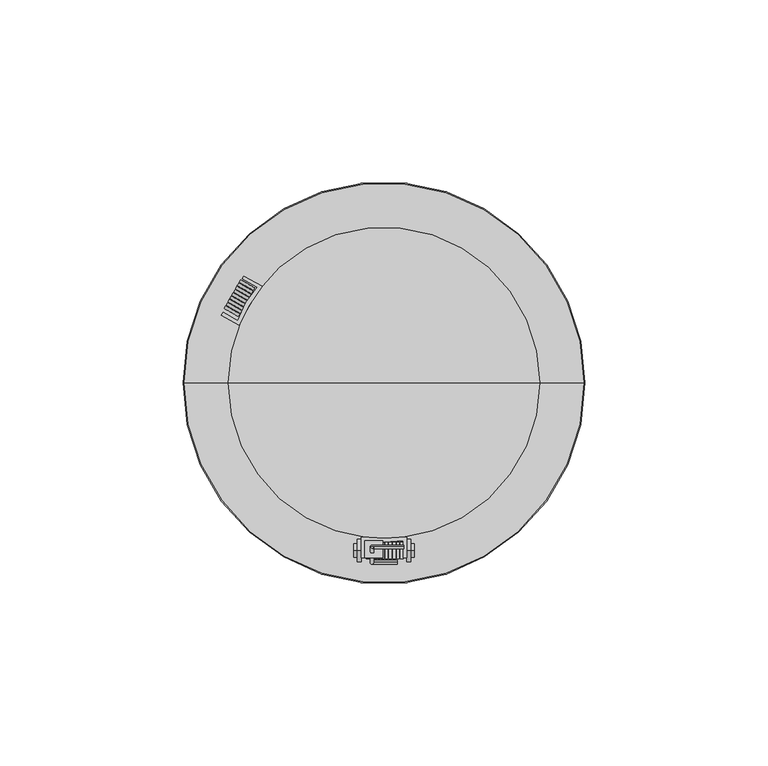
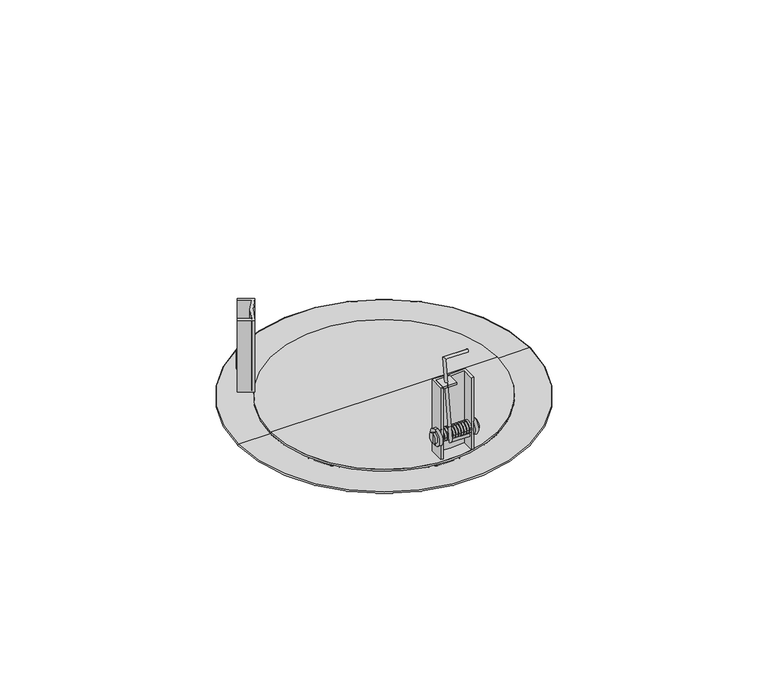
"""IFC4 building model written with IfcOpenShell, lengths in millimetres: proxy geometry, DL 10-165_T plus-EN54 : DL 10-165/T plus-EN54."""

from ifc_helpers import new_model, si_unit, point, frame, frame_2d, origin, origin_2d, place, context, project, spatial, polyline, circle_curve, ellipse_curve, trimmed, segment, composite_curve, outline, extrude, source, transform, mapped, element, save
from ifc_brep_helpers import plane_surface, cylinder_surface, revolved_surface, advanced_brep


def communication_devices_3dddd781(model_context):
    return source(origin(), model_context, "Body", "SolidModel", [
        extrude(outline(composite_curve([segment(trimmed(circle_curve(frame_2d((0.0, -2.2114931)), 2.2114931), [point((0.0, -4.4229862))], [point((0.0, 0.0))], False, "CARTESIAN"), True, "CONTINUOUS"), segment(trimmed(circle_curve(frame_2d((0.0, -2.2114931)), 2.2114931), [point((0.0, 0.0))], [point((0.0, -4.4229862))], False, "CARTESIAN"), True, "CONTINUOUS")], self_intersect=False), holes=[composite_curve([segment(trimmed(circle_curve(frame_2d((0.0, -2.2114931)), 1.6197878), [point((0.0, -3.8312809))], [point((0.0, -0.5917053))], True, "CARTESIAN"), True, "CONTINUOUS"), segment(trimmed(circle_curve(frame_2d((0.0, -2.2114931)), 1.6197878), [point((0.0, -0.5917053))], [point((0.0, -3.8312809))], True, "CARTESIAN"), True, "CONTINUOUS")], self_intersect=False)]), frame((-43.6371534, 20.3715056, 13.8879558), z_axis=(0.5000000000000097, 0.866025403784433, 0.0), x_axis=(0.0, 0.0, -1.0)), (0.0, 0.0, 1.0), 0.7554192),
        extrude(outline(composite_curve([segment(trimmed(circle_curve(frame_2d((0.0, -2.2114931)), 2.2114931), [point((0.0, -4.4229862))], [point((0.0, 0.0))], False, "CARTESIAN"), True, "CONTINUOUS"), segment(trimmed(circle_curve(frame_2d((0.0, -2.2114931)), 2.2114931), [point((0.0, 0.0))], [point((0.0, -4.4229862))], False, "CARTESIAN"), True, "CONTINUOUS")], self_intersect=False), holes=[composite_curve([segment(trimmed(circle_curve(frame_2d((0.0, -2.2114931)), 1.6197878), [point((0.0, -3.8312809))], [point((0.0, -0.5917053))], True, "CARTESIAN"), True, "CONTINUOUS"), segment(trimmed(circle_curve(frame_2d((0.0, -2.2114931)), 1.6197878), [point((0.0, -0.5917053))], [point((0.0, -3.8312809))], True, "CARTESIAN"), True, "CONTINUOUS")], self_intersect=False)]), frame((-43.121995, 21.2637861, 13.8879558), z_axis=(0.5000000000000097, 0.866025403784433, 0.0), x_axis=(0.0, 0.0, -1.0)), (0.0, 0.0, 1.0), 0.7554192),
        extrude(outline(composite_curve([segment(trimmed(circle_curve(frame_2d((0.0, -2.2114931)), 2.2114931), [point((0.0, -4.4229862))], [point((0.0, 0.0))], False, "CARTESIAN"), True, "CONTINUOUS"), segment(trimmed(circle_curve(frame_2d((0.0, -2.2114931)), 2.2114931), [point((0.0, 0.0))], [point((0.0, -4.4229862))], False, "CARTESIAN"), True, "CONTINUOUS")], self_intersect=False), holes=[composite_curve([segment(trimmed(circle_curve(frame_2d((0.0, -2.2114931)), 1.6197878), [point((0.0, -3.8312809))], [point((0.0, -0.5917053))], True, "CARTESIAN"), True, "CONTINUOUS"), segment(trimmed(circle_curve(frame_2d((0.0, -2.2114931)), 1.6197878), [point((0.0, -0.5917053))], [point((0.0, -3.8312809))], True, "CARTESIAN"), True, "CONTINUOUS")], self_intersect=False)]), frame((-42.6068366, 22.1560666, 13.8879558), z_axis=(0.5000000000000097, 0.866025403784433, 0.0), x_axis=(0.0, 0.0, -1.0)), (0.0, 0.0, 1.0), 0.7554192),
        extrude(outline(composite_curve([segment(trimmed(circle_curve(frame_2d((0.0, -2.2114931)), 2.2114931), [point((0.0, -4.4229861))], [point((0.0, 0.0))], False, "CARTESIAN"), True, "CONTINUOUS"), segment(trimmed(circle_curve(frame_2d((0.0, -2.2114931)), 2.2114931), [point((0.0, 0.0))], [point((0.0, -4.4229861))], False, "CARTESIAN"), True, "CONTINUOUS")], self_intersect=False), holes=[composite_curve([segment(trimmed(circle_curve(frame_2d((0.0, -2.2114931)), 1.6197878), [point((0.0, -3.8312809))], [point((0.0, -0.5917052))], True, "CARTESIAN"), True, "CONTINUOUS"), segment(trimmed(circle_curve(frame_2d((0.0, -2.2114931)), 1.6197878), [point((0.0, -0.5917052))], [point((0.0, -3.8312809))], True, "CARTESIAN"), True, "CONTINUOUS")], self_intersect=False)]), frame((-42.0916782, 23.0483471, 13.8879558), z_axis=(0.5000000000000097, 0.866025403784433, 0.0), x_axis=(0.0, 0.0, -1.0)), (0.0, 0.0, 1.0), 0.7554192),
        extrude(outline(composite_curve([segment(trimmed(circle_curve(frame_2d((0.0, -2.2114931)), 2.2114931), [point((0.0, -4.4229861))], [point((0.0, 0.0))], False, "CARTESIAN"), True, "CONTINUOUS"), segment(trimmed(circle_curve(frame_2d((0.0, -2.2114931)), 2.2114931), [point((0.0, 0.0))], [point((0.0, -4.4229861))], False, "CARTESIAN"), True, "CONTINUOUS")], self_intersect=False), holes=[composite_curve([segment(trimmed(circle_curve(frame_2d((0.0, -2.2114931)), 1.6197878), [point((0.0, -3.8312809))], [point((0.0, -0.5917052))], True, "CARTESIAN"), True, "CONTINUOUS"), segment(trimmed(circle_curve(frame_2d((0.0, -2.2114931)), 1.6197878), [point((0.0, -0.5917052))], [point((0.0, -3.8312809))], True, "CARTESIAN"), True, "CONTINUOUS")], self_intersect=False)]), frame((-41.5765198, 23.9406276, 13.8879558), z_axis=(0.5000000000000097, 0.866025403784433, 0.0), x_axis=(0.0, 0.0, -1.0)), (0.0, 0.0, 1.0), 0.7554192),
        extrude(outline(composite_curve([segment(trimmed(circle_curve(frame_2d((0.0, -2.2114931)), 2.2114931), [point((0.0, -4.4229861))], [point((0.0, 0.0))], False, "CARTESIAN"), True, "CONTINUOUS"), segment(trimmed(circle_curve(frame_2d((0.0, -2.2114931)), 2.2114931), [point((0.0, 0.0))], [point((0.0, -4.4229861))], False, "CARTESIAN"), True, "CONTINUOUS")], self_intersect=False), holes=[composite_curve([segment(trimmed(circle_curve(frame_2d((0.0, -2.2114931)), 1.6197878), [point((0.0, -3.8312809))], [point((0.0, -0.5917052))], True, "CARTESIAN"), True, "CONTINUOUS"), segment(trimmed(circle_curve(frame_2d((0.0, -2.2114931)), 1.6197878), [point((0.0, -0.5917052))], [point((0.0, -3.8312809))], True, "CARTESIAN"), True, "CONTINUOUS")], self_intersect=False)]), frame((-41.0613614, 24.8329081, 13.8879558), z_axis=(0.5000000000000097, 0.866025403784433, 0.0), x_axis=(0.0, 0.0, -1.0)), (0.0, 0.0, 1.0), 0.7554192),
        extrude(outline(composite_curve([segment(trimmed(circle_curve(frame_2d((0.0, -2.211493)), 2.2114931), [point((0.0, -4.4229861))], [point((0.0, 0.0))], False, "CARTESIAN"), True, "CONTINUOUS"), segment(trimmed(circle_curve(frame_2d((0.0, -2.211493)), 2.2114931), [point((0.0, 0.0))], [point((0.0, -4.4229861))], False, "CARTESIAN"), True, "CONTINUOUS")], self_intersect=False), holes=[composite_curve([segment(trimmed(circle_curve(frame_2d((0.0, -2.211493)), 1.6197878), [point((0.0, -3.8312809))], [point((0.0, -0.5917052))], True, "CARTESIAN"), True, "CONTINUOUS"), segment(trimmed(circle_curve(frame_2d((0.0, -2.211493)), 1.6197878), [point((0.0, -0.5917052))], [point((0.0, -3.8312809))], True, "CARTESIAN"), True, "CONTINUOUS")], self_intersect=False)]), frame((-40.546203, 25.7251886, 13.8879558), z_axis=(0.5000000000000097, 0.866025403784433, 0.0), x_axis=(0.0, 0.0, -1.0)), (0.0, 0.0, 1.0), 0.7554192),
        extrude(outline(composite_curve([segment(trimmed(circle_curve(frame_2d((0.0, -2.211493)), 2.2114931), [point((0.0, -4.4229861))], [point((0.0, 0.0))], False, "CARTESIAN"), True, "CONTINUOUS"), segment(trimmed(circle_curve(frame_2d((0.0, -2.211493)), 2.2114931), [point((0.0, 0.0))], [point((0.0, -4.4229861))], False, "CARTESIAN"), True, "CONTINUOUS")], self_intersect=False), holes=[composite_curve([segment(trimmed(circle_curve(frame_2d((0.0, -2.211493)), 1.6197878), [point((0.0, -3.8312809))], [point((0.0, -0.5917052))], True, "CARTESIAN"), True, "CONTINUOUS"), segment(trimmed(circle_curve(frame_2d((0.0, -2.211493)), 1.6197878), [point((0.0, -0.5917052))], [point((0.0, -3.8312809))], True, "CARTESIAN"), True, "CONTINUOUS")], self_intersect=False)]), frame((-40.0310446, 26.6174691, 13.8879558), z_axis=(0.5000000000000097, 0.866025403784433, 0.0), x_axis=(0.0, 0.0, -1.0)), (0.0, 0.0, 1.0), 0.7554192),
        extrude(outline(composite_curve([segment(trimmed(circle_curve(frame_2d((0.0, -2.2114931)), 2.2114931), [point((0.0, -4.4229861))], [point((0.0, 0.0))], False, "CARTESIAN"), True, "CONTINUOUS"), segment(trimmed(circle_curve(frame_2d((0.0, -2.2114931)), 2.2114931), [point((0.0, 0.0))], [point((0.0, -4.4229861))], False, "CARTESIAN"), True, "CONTINUOUS")], self_intersect=False), holes=[composite_curve([segment(trimmed(circle_curve(frame_2d((0.0, -2.2114931)), 1.6197878), [point((0.0, -3.8312809))], [point((0.0, -0.5917053))], True, "CARTESIAN"), True, "CONTINUOUS"), segment(trimmed(circle_curve(frame_2d((0.0, -2.2114931)), 1.6197878), [point((0.0, -0.5917053))], [point((0.0, -3.8312809))], True, "CARTESIAN"), True, "CONTINUOUS")], self_intersect=False)]), frame((-39.5158863, 27.5097496, 13.8879558), z_axis=(0.5000000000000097, 0.866025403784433, 0.0), x_axis=(0.0, 0.0, -1.0)), (0.0, 0.0, 1.0), 0.7554192),
        extrude(outline(composite_curve([segment(trimmed(circle_curve(frame_2d((0.0, -2.2114931)), 2.2114931), [point((0.0, -4.4229861))], [point((0.0, 0.0))], False, "CARTESIAN"), True, "CONTINUOUS"), segment(trimmed(circle_curve(frame_2d((0.0, -2.2114931)), 2.2114931), [point((0.0, 0.0))], [point((0.0, -4.4229861))], False, "CARTESIAN"), True, "CONTINUOUS")], self_intersect=False), holes=[composite_curve([segment(trimmed(circle_curve(frame_2d((0.0, -2.2114931)), 1.6197878), [point((0.0, -3.8312809))], [point((0.0, -0.5917053))], True, "CARTESIAN"), True, "CONTINUOUS"), segment(trimmed(circle_curve(frame_2d((0.0, -2.2114931)), 1.6197878), [point((0.0, -0.5917053))], [point((0.0, -3.8312809))], True, "CARTESIAN"), True, "CONTINUOUS")], self_intersect=False)]), frame((-39.5158863, 27.5097496, 13.8879558), z_axis=(0.5000000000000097, 0.866025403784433, 0.0), x_axis=(0.0, 0.0, -1.0)), (0.0, 0.0, 1.0), 0.7554192),
        extrude(outline(composite_curve([segment(trimmed(circle_curve(origin_2d(), 42.496521), [point((-33.3310099, 26.3628162))], [point((-39.4963735, 15.6840932))], True, "CARTESIAN"), True, "CONTINUOUS"), segment(polyline([(-39.4963735, 15.6840932), (-44.4217943, 18.5277863), (-43.9440892, 19.3551958), (-39.9036209, 17.0224303)]), True, "CONTINUOUS"), segment(trimmed(circle_curve(frame_2d((-15.4549714, 8.8959153)), 25.7638644), [point((-39.9036209, 17.0224303))], [point((-34.6171509, 26.1176336))], False, "CARTESIAN"), True, "CONTINUOUS"), segment(polyline([(-34.6171509, 26.1176336), (-38.6841332, 28.4657069), (-38.2564308, 29.2065092), (-33.3310099, 26.3628162)]), True, "CONTINUOUS")], self_intersect=False)), frame((0.0, 0.0, 5.7345004), z_axis=(0.0, 0.0, 1.0), x_axis=(1.0, 0.0, 0.0)), (0.0, 0.0, 1.0), 28.5085083),
        extrude(outline(polyline([(-0.3099587, -47.7342955), (-5.3099587, -47.7342955), (-5.3099587, -43.1693211), (-0.3099587, -43.1693211), (-0.3099587, -47.7342955)])), frame((0.0, 0.0, 33.4827769), z_axis=(0.0, 0.0, 1.0), x_axis=(1.0, 0.0, 0.0)), (0.0, 0.0, 1.0), 0.7602318),
        advanced_brep(
        [(5.4613857, -44.7818094, 43.8165144), (5.4613857, -44.9176783, 42.8257876), (-2.7591181, -44.9176783, 42.8257876), (-3.7591181, -44.7818094, 43.8165144), (-3.7591181, -49.0834006, 12.4502375), (-2.7591181, -48.9475317, 13.4409643), (3.624845, -49.0834006, 12.4502375), (3.624845, -48.9475317, 13.4409643)],
        [
            (0, 1, circle_curve(frame((5.4613857, -44.8497438, 43.321151), z_axis=(1.0, 0.0, 0.0), x_axis=(0.0, -0.13586890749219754, -0.9907268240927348)), 0.5)),
            (1, 0, circle_curve(frame((5.4613857, -44.8497438, 43.321151), z_axis=(1.0, 0.0, 0.0), x_axis=(0.0, -0.13586890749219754, -0.9907268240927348)), 0.5)),
            (2, 3, ellipse_curve(frame((-3.2591181, -44.8497438, 43.321151), z_axis=(-0.7071067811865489, -0.09607382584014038, -0.7005496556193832), x_axis=(-0.7071067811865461, 0.09607382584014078, 0.700549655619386)), 0.7071068, 0.5)),
            (3, 4),
            (4, 5, ellipse_curve(frame((-3.2591181, -49.0154661, 12.9456009), z_axis=(-0.7071067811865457, 0.0960738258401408, 0.7005496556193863), x_axis=(0.7071067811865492, 0.09607382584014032, 0.7005496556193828)), 0.7071068, 0.5)),
            (5, 2),
            (3, 2, ellipse_curve(frame((-3.2591181, -44.8497438, 43.321151), z_axis=(-0.7071067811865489, -0.09607382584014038, -0.7005496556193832), x_axis=(-0.7071067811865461, 0.09607382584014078, 0.700549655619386)), 0.7071068, 0.5)),
            (5, 4, ellipse_curve(frame((-3.2591181, -49.0154661, 12.9456009), z_axis=(-0.7071067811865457, 0.0960738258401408, 0.7005496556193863), x_axis=(0.7071067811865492, 0.09607382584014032, 0.7005496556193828)), 0.7071068, 0.5)),
            (6, 7, circle_curve(frame((3.624845, -49.0154661, 12.9456009), z_axis=(1.0, 0.0, 0.0), x_axis=(0.0, 0.13586890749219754, 0.9907268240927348)), 0.5)),
            (7, 6, circle_curve(frame((3.624845, -49.0154661, 12.9456009), z_axis=(1.0, 0.0, 0.0), x_axis=(0.0, 0.13586890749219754, 0.9907268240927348)), 0.5)),
            (4, 6),
            (7, 5),
            (0, 3),
            (2, 1),
        ],
        [
            plane_surface(frame((5.4613857, -0.3703338, 36.0923621), z_axis=(1.0, 0.0, 0.0), x_axis=(0.0, -0.9907268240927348, 0.13586890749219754))),
            cylinder_surface(frame((-3.2591181, -45.0016978, 42.2131358), z_axis=(0.0, 0.13586890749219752, 0.9907268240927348), x_axis=(1.0, 0.0, 0.0)), 0.5),
            plane_surface(frame((3.624845, -4.2321483, 7.9328424), z_axis=(1.0, 0.0, 0.0), x_axis=(0.0, -0.9907268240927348, 0.13586890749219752))),
            cylinder_surface(frame((-2.140732, -49.0154661, 12.9456009), z_axis=(-1.0, 0.0, 0.0), x_axis=(0.0, 0.13586890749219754, 0.9907268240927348)), 0.5),
            cylinder_surface(frame((5.4613857, -44.8497438, 43.321151), z_axis=(1.0, 0.0, 0.0), x_axis=(0.0, -0.13586890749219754, -0.9907268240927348)), 0.5),
        ],
        [
            (0, [[1, 2]]),
            (1, [[3, 4, 5, 6]]),
            (1, [[7, -6, 8, -4]]),
            (2, [[9, 10]]),
            (3, [[-5, 11, -10, 12]]),
            (3, [[-8, -12, -9, -11]]),
            (4, [[-1, 13, -3, 14]]),
            (4, [[-2, -14, -7, -13]]),
        ],
    ),
        advanced_brep(
        [(-7.2651289, -45.78125, 10.6517111), (-7.2651289, -45.78125, 16.869995), (-6.1653636, -45.78125, 16.869995), (-6.1653636, -45.78125, 10.6517111), (-7.2651289, -45.78125, 11.8431266), (-7.2651289, -45.78125, 15.6785795), (-8.210857, -45.78125, 11.8431266), (-8.210857, -45.78125, 15.6785795), (-8.210857, -45.78125, 13.760853), (8.210857, -45.78125, 11.8431266), (8.210857, -45.78125, 15.6785795), (8.210857, -45.78125, 13.760853), (7.2651289, -45.78125, 11.8431266), (7.2651289, -45.78125, 15.6785795), (7.2651289, -45.78125, 10.6517111), (7.2651289, -45.78125, 16.869995), (6.1653636, -45.78125, 10.6517111), (6.1653636, -45.78125, 16.869995), (6.1653636, -45.78125, 12.8676654), (6.1653636, -45.78125, 14.6540407), (-6.1653636, -45.78125, 12.8676654), (-6.1653636, -45.78125, 14.6540407)],
        [
            (0, 1, circle_curve(frame((-7.2651289, -45.78125, 13.760853), z_axis=(1.0, 0.0, 0.0), x_axis=(0.0, 0.0, 1.0)), 3.109142)),
            (1, 2),
            (2, 3, circle_curve(frame((-6.1653636, -45.78125, 13.760853), z_axis=(-1.0, 0.0, 0.0), x_axis=(0.0, 0.0, 1.0)), 3.109142)),
            (3, 0),
            (1, 0, circle_curve(frame((-7.2651289, -45.78125, 13.760853), z_axis=(1.0, 0.0, 0.0), x_axis=(0.0, 0.0, 1.0)), 3.109142)),
            (3, 2, circle_curve(frame((-6.1653636, -45.78125, 13.760853), z_axis=(-1.0, 0.0, 0.0), x_axis=(0.0, 0.0, 1.0)), 3.109142)),
            (4, 5, circle_curve(frame((-7.2651289, -45.78125, 13.760853), z_axis=(1.0, 0.0, 0.0), x_axis=(0.0, 0.0, 1.0)), 1.9177265)),
            (5, 1),
            (0, 4),
            (5, 4, circle_curve(frame((-7.2651289, -45.78125, 13.760853), z_axis=(1.0, 0.0, 0.0), x_axis=(0.0, 0.0, 1.0)), 1.9177265)),
            (6, 7, circle_curve(frame((-8.210857, -45.78125, 13.760853), z_axis=(1.0, 0.0, 0.0), x_axis=(0.0, 0.0, 1.0)), 1.9177265)),
            (7, 5),
            (4, 6),
            (7, 6, circle_curve(frame((-8.210857, -45.78125, 13.760853), z_axis=(1.0, 0.0, 0.0), x_axis=(0.0, 0.0, 1.0)), 1.9177265)),
            (8, 7),
            (6, 8),
            (9, 10, circle_curve(frame((8.210857, -45.78125, 13.760853), z_axis=(1.0, 0.0, 0.0), x_axis=(0.0, 0.0, 1.0)), 1.9177265)),
            (10, 11),
            (11, 9),
            (10, 9, circle_curve(frame((8.210857, -45.78125, 13.760853), z_axis=(1.0, 0.0, 0.0), x_axis=(0.0, 0.0, 1.0)), 1.9177265)),
            (12, 13, circle_curve(frame((7.2651289, -45.78125, 13.760853), z_axis=(1.0, 0.0, 0.0), x_axis=(0.0, 0.0, 1.0)), 1.9177265)),
            (13, 10),
            (9, 12),
            (13, 12, circle_curve(frame((7.2651289, -45.78125, 13.760853), z_axis=(1.0, 0.0, 0.0), x_axis=(0.0, 0.0, 1.0)), 1.9177265)),
            (14, 15, circle_curve(frame((7.2651289, -45.78125, 13.760853), z_axis=(1.0, 0.0, 0.0), x_axis=(0.0, 0.0, 1.0)), 3.109142)),
            (15, 13),
            (12, 14),
            (15, 14, circle_curve(frame((7.2651289, -45.78125, 13.760853), z_axis=(1.0, 0.0, 0.0), x_axis=(0.0, 0.0, 1.0)), 3.109142)),
            (16, 17, circle_curve(frame((6.1653636, -45.78125, 13.760853), z_axis=(1.0, 0.0, 0.0), x_axis=(0.0, 0.0, 1.0)), 3.109142)),
            (17, 15),
            (14, 16),
            (17, 16, circle_curve(frame((6.1653636, -45.78125, 13.760853), z_axis=(1.0, 0.0, 0.0), x_axis=(0.0, 0.0, 1.0)), 3.109142)),
            (18, 19, circle_curve(frame((6.1653636, -45.78125, 13.760853), z_axis=(1.0, 0.0, 0.0), x_axis=(0.0, 0.0, 1.0)), 0.8931877)),
            (19, 17),
            (16, 18),
            (19, 18, circle_curve(frame((6.1653636, -45.78125, 13.760853), z_axis=(1.0, 0.0, 0.0), x_axis=(0.0, 0.0, 1.0)), 0.8931877)),
            (20, 21, circle_curve(frame((-6.1653636, -45.78125, 13.760853), z_axis=(1.0, 0.0, 0.0), x_axis=(0.0, 0.0, 1.0)), 0.8931877)),
            (21, 19),
            (18, 20),
            (21, 20, circle_curve(frame((-6.1653636, -45.78125, 13.760853), z_axis=(1.0, 0.0, 0.0), x_axis=(0.0, 0.0, 1.0)), 0.8931877)),
            (2, 21),
            (20, 3),
        ],
        [
            cylinder_surface(frame((-0.700351, -45.78125, 13.760853), z_axis=(-1.0, 0.0, 0.0), x_axis=(0.0, 0.0, 1.0)), 3.109142),
            plane_surface(frame((-7.2651289, -45.78125, 13.760853), z_axis=(-1.0, 0.0, 0.0), x_axis=(0.0, 0.0, 1.0))),
            cylinder_surface(frame((-0.700351, -45.78125, 13.760853), z_axis=(-1.0, 0.0, 0.0), x_axis=(0.0, 0.0, 1.0)), 1.9177265),
            plane_surface(frame((-8.210857, -45.78125, 13.760853), z_axis=(-1.0, 0.0, 0.0), x_axis=(0.0, 0.0, 1.0))),
            plane_surface(frame((8.210857, -45.78125, 13.760853), z_axis=(1.0, 0.0, 0.0), x_axis=(0.0, 0.0, 1.0))),
            plane_surface(frame((7.2651289, -45.78125, 13.760853), z_axis=(1.0, 0.0, 0.0), x_axis=(0.0, 0.0, 1.0))),
            plane_surface(frame((6.1653636, -45.78125, 13.760853), z_axis=(-1.0, 0.0, 0.0), x_axis=(0.0, 0.0, 1.0))),
            cylinder_surface(frame((-0.700351, -45.78125, 13.760853), z_axis=(-1.0, 0.0, 0.0), x_axis=(0.0, 0.0, 1.0)), 0.8931877),
            plane_surface(frame((-6.1653636, -45.78125, 13.760853), z_axis=(1.0, 0.0, 0.0), x_axis=(0.0, 0.0, 1.0))),
        ],
        [
            (0, [[1, 2, 3, 4]]),
            (0, [[5, -4, 6, -2]]),
            (1, [[7, 8, -1, 9]]),
            (1, [[10, -9, -5, -8]]),
            (2, [[11, 12, -7, 13]]),
            (2, [[14, -13, -10, -12]]),
            (3, [[15, -11, 16]]),
            (3, [[-16, -14, -15]]),
            (4, [[17, 18, 19]]),
            (4, [[20, -19, -18]]),
            (2, [[21, 22, -17, 23]]),
            (2, [[24, -23, -20, -22]]),
            (5, [[25, 26, -21, 27]]),
            (5, [[28, -27, -24, -26]]),
            (0, [[29, 30, -25, 31]]),
            (0, [[32, -31, -28, -30]]),
            (6, [[33, 34, -29, 35]]),
            (6, [[36, -35, -32, -34]]),
            (7, [[37, 38, -33, 39]]),
            (7, [[40, -39, -36, -38]]),
            (8, [[-3, 41, -37, 42]]),
            (8, [[-6, -42, -40, -41]]),
        ],
    ),
        extrude(outline(composite_curve([segment(trimmed(circle_curve(frame_2d((-45.7651431, 13.8879558)), 2.2114931), [point((-43.55365, 13.8879558))], [point((-47.9766362, 13.8879558))], False, "CARTESIAN"), True, "CONTINUOUS"), segment(trimmed(circle_curve(frame_2d((-45.7651431, 13.8879558)), 2.2114931), [point((-47.9766362, 13.8879558))], [point((-43.55365, 13.8879558))], False, "CARTESIAN"), True, "CONTINUOUS")], self_intersect=False), holes=[composite_curve([segment(trimmed(circle_curve(frame_2d((-45.7651431, 13.8879558)), 1.6197878), [point((-44.1453553, 13.8879558))], [point((-47.3849309, 13.8879558))], True, "CARTESIAN"), True, "CONTINUOUS"), segment(trimmed(circle_curve(frame_2d((-45.7651431, 13.8879558)), 1.6197878), [point((-47.3849309, 13.8879558))], [point((-44.1453553, 13.8879558))], True, "CARTESIAN"), True, "CONTINUOUS")], self_intersect=False)]), frame((4.4512329, 0.0, 0.0), z_axis=(1.0, 0.0, 0.0), x_axis=(0.0, 1.0, 0.0)), (0.0, 0.0, 1.0), 0.7554192),
        extrude(outline(composite_curve([segment(trimmed(circle_curve(frame_2d((-45.7651431, 13.8879558)), 2.2114931), [point((-43.55365, 13.8879558))], [point((-47.9766362, 13.8879558))], False, "CARTESIAN"), True, "CONTINUOUS"), segment(trimmed(circle_curve(frame_2d((-45.7651431, 13.8879558)), 2.2114931), [point((-47.9766362, 13.8879558))], [point((-43.55365, 13.8879558))], False, "CARTESIAN"), True, "CONTINUOUS")], self_intersect=False), holes=[composite_curve([segment(trimmed(circle_curve(frame_2d((-45.7651431, 13.8879558)), 1.6197878), [point((-44.1453553, 13.8879558))], [point((-47.3849309, 13.8879558))], True, "CARTESIAN"), True, "CONTINUOUS"), segment(trimmed(circle_curve(frame_2d((-45.7651431, 13.8879558)), 1.6197878), [point((-47.3849309, 13.8879558))], [point((-44.1453553, 13.8879558))], True, "CARTESIAN"), True, "CONTINUOUS")], self_intersect=False)]), frame((3.4209161, 0.0, 0.0), z_axis=(1.0, 0.0, 0.0), x_axis=(0.0, 1.0, 0.0)), (0.0, 0.0, 1.0), 0.7554192),
        extrude(outline(composite_curve([segment(trimmed(circle_curve(frame_2d((-45.7651431, 13.8879558)), 2.2114931), [point((-43.55365, 13.8879558))], [point((-47.9766362, 13.8879558))], False, "CARTESIAN"), True, "CONTINUOUS"), segment(trimmed(circle_curve(frame_2d((-45.7651431, 13.8879558)), 2.2114931), [point((-47.9766362, 13.8879558))], [point((-43.55365, 13.8879558))], False, "CARTESIAN"), True, "CONTINUOUS")], self_intersect=False), holes=[composite_curve([segment(trimmed(circle_curve(frame_2d((-45.7651431, 13.8879558)), 1.6197878), [point((-44.1453553, 13.8879558))], [point((-47.3849309, 13.8879558))], True, "CARTESIAN"), True, "CONTINUOUS"), segment(trimmed(circle_curve(frame_2d((-45.7651431, 13.8879558)), 1.6197878), [point((-47.3849309, 13.8879558))], [point((-44.1453553, 13.8879558))], True, "CARTESIAN"), True, "CONTINUOUS")], self_intersect=False)]), frame((2.3905993, 0.0, 0.0), z_axis=(1.0, 0.0, 0.0), x_axis=(0.0, 1.0, 0.0)), (0.0, 0.0, 1.0), 0.7554192),
        extrude(outline(composite_curve([segment(trimmed(circle_curve(frame_2d((-45.7651431, 13.8879558)), 2.2114931), [point((-43.55365, 13.8879558))], [point((-47.9766362, 13.8879558))], False, "CARTESIAN"), True, "CONTINUOUS"), segment(trimmed(circle_curve(frame_2d((-45.7651431, 13.8879558)), 2.2114931), [point((-47.9766362, 13.8879558))], [point((-43.55365, 13.8879558))], False, "CARTESIAN"), True, "CONTINUOUS")], self_intersect=False), holes=[composite_curve([segment(trimmed(circle_curve(frame_2d((-45.7651431, 13.8879558)), 1.6197878), [point((-44.1453553, 13.8879558))], [point((-47.3849309, 13.8879558))], True, "CARTESIAN"), True, "CONTINUOUS"), segment(trimmed(circle_curve(frame_2d((-45.7651431, 13.8879558)), 1.6197878), [point((-47.3849309, 13.8879558))], [point((-44.1453553, 13.8879558))], True, "CARTESIAN"), True, "CONTINUOUS")], self_intersect=False)]), frame((1.3602826, 0.0, 0.0), z_axis=(1.0, 0.0, 0.0), x_axis=(0.0, 1.0, 0.0)), (0.0, 0.0, 1.0), 0.7554192),
        extrude(outline(composite_curve([segment(trimmed(circle_curve(frame_2d((-45.7651431, 13.8879558)), 2.2114931), [point((-43.55365, 13.8879558))], [point((-47.9766362, 13.8879558))], False, "CARTESIAN"), True, "CONTINUOUS"), segment(trimmed(circle_curve(frame_2d((-45.7651431, 13.8879558)), 2.2114931), [point((-47.9766362, 13.8879558))], [point((-43.55365, 13.8879558))], False, "CARTESIAN"), True, "CONTINUOUS")], self_intersect=False), holes=[composite_curve([segment(trimmed(circle_curve(frame_2d((-45.7651431, 13.8879558)), 1.6197878), [point((-44.1453553, 13.8879558))], [point((-47.3849309, 13.8879558))], True, "CARTESIAN"), True, "CONTINUOUS"), segment(trimmed(circle_curve(frame_2d((-45.7651431, 13.8879558)), 1.6197878), [point((-47.3849309, 13.8879558))], [point((-44.1453553, 13.8879558))], True, "CARTESIAN"), True, "CONTINUOUS")], self_intersect=False)]), frame((0.3299658, 0.0, 0.0), z_axis=(1.0, 0.0, 0.0), x_axis=(0.0, 1.0, 0.0)), (0.0, 0.0, 1.0), 0.7554192),
        extrude(outline(composite_curve([segment(trimmed(circle_curve(frame_2d((-45.7651431, 13.8879558)), 2.2114931), [point((-43.55365, 13.8879558))], [point((-47.9766362, 13.8879558))], False, "CARTESIAN"), True, "CONTINUOUS"), segment(trimmed(circle_curve(frame_2d((-45.7651431, 13.8879558)), 2.2114931), [point((-47.9766362, 13.8879558))], [point((-43.55365, 13.8879558))], False, "CARTESIAN"), True, "CONTINUOUS")], self_intersect=False), holes=[composite_curve([segment(trimmed(circle_curve(frame_2d((-45.7651431, 13.8879558)), 1.6197878), [point((-44.1453553, 13.8879558))], [point((-47.3849309, 13.8879558))], True, "CARTESIAN"), True, "CONTINUOUS"), segment(trimmed(circle_curve(frame_2d((-45.7651431, 13.8879558)), 1.6197878), [point((-47.3849309, 13.8879558))], [point((-44.1453553, 13.8879558))], True, "CARTESIAN"), True, "CONTINUOUS")], self_intersect=False)]), frame((-0.700351, 0.0, 0.0), z_axis=(1.0, 0.0, 0.0), x_axis=(0.0, 1.0, 0.0)), (0.0, 0.0, 1.0), 0.7554192),
        extrude(outline(composite_curve([segment(trimmed(circle_curve(frame_2d((-45.7651431, 13.8879558)), 2.2114931), [point((-43.55365, 13.8879558))], [point((-47.9766362, 13.8879558))], False, "CARTESIAN"), True, "CONTINUOUS"), segment(trimmed(circle_curve(frame_2d((-45.7651431, 13.8879558)), 2.2114931), [point((-47.9766362, 13.8879558))], [point((-43.55365, 13.8879558))], False, "CARTESIAN"), True, "CONTINUOUS")], self_intersect=False), holes=[composite_curve([segment(trimmed(circle_curve(frame_2d((-45.7651431, 13.8879558)), 1.6197878), [point((-44.1453553, 13.8879558))], [point((-47.3849309, 13.8879558))], True, "CARTESIAN"), True, "CONTINUOUS"), segment(trimmed(circle_curve(frame_2d((-45.7651431, 13.8879558)), 1.6197878), [point((-47.3849309, 13.8879558))], [point((-44.1453553, 13.8879558))], True, "CARTESIAN"), True, "CONTINUOUS")], self_intersect=False)]), frame((-1.7306678, 0.0, 0.0), z_axis=(1.0, 0.0, 0.0), x_axis=(0.0, 1.0, 0.0)), (0.0, 0.0, 1.0), 0.7554192),
        extrude(outline(composite_curve([segment(trimmed(circle_curve(frame_2d((-45.7651431, 13.8879558)), 2.2114931), [point((-43.55365, 13.8879558))], [point((-47.9766362, 13.8879558))], False, "CARTESIAN"), True, "CONTINUOUS"), segment(trimmed(circle_curve(frame_2d((-45.7651431, 13.8879558)), 2.2114931), [point((-47.9766362, 13.8879558))], [point((-43.55365, 13.8879558))], False, "CARTESIAN"), True, "CONTINUOUS")], self_intersect=False), holes=[composite_curve([segment(trimmed(circle_curve(frame_2d((-45.7651431, 13.8879558)), 1.6197878), [point((-44.1453553, 13.8879558))], [point((-47.3849309, 13.8879558))], True, "CARTESIAN"), True, "CONTINUOUS"), segment(trimmed(circle_curve(frame_2d((-45.7651431, 13.8879558)), 1.6197878), [point((-47.3849309, 13.8879558))], [point((-44.1453553, 13.8879558))], True, "CARTESIAN"), True, "CONTINUOUS")], self_intersect=False)]), frame((-2.7609846, 0.0, 0.0), z_axis=(1.0, 0.0, 0.0), x_axis=(0.0, 1.0, 0.0)), (0.0, 0.0, 1.0), 0.7554192),
        extrude(outline(composite_curve([segment(trimmed(circle_curve(frame_2d((-45.7651431, 13.8879558)), 2.2114931), [point((-43.55365, 13.8879558))], [point((-47.9766362, 13.8879558))], False, "CARTESIAN"), True, "CONTINUOUS"), segment(trimmed(circle_curve(frame_2d((-45.7651431, 13.8879558)), 2.2114931), [point((-47.9766362, 13.8879558))], [point((-43.55365, 13.8879558))], False, "CARTESIAN"), True, "CONTINUOUS")], self_intersect=False), holes=[composite_curve([segment(trimmed(circle_curve(frame_2d((-45.7651431, 13.8879558)), 1.6197878), [point((-44.1453553, 13.8879558))], [point((-47.3849309, 13.8879558))], True, "CARTESIAN"), True, "CONTINUOUS"), segment(trimmed(circle_curve(frame_2d((-45.7651431, 13.8879558)), 1.6197878), [point((-47.3849309, 13.8879558))], [point((-44.1453553, 13.8879558))], True, "CARTESIAN"), True, "CONTINUOUS")], self_intersect=False)]), frame((-3.7913014, 0.0, 0.0), z_axis=(1.0, 0.0, 0.0), x_axis=(0.0, 1.0, 0.0)), (0.0, 0.0, 1.0), 0.7554192),
        extrude(outline(composite_curve([segment(trimmed(circle_curve(frame_2d((-45.7651431, 13.8879558)), 2.2114931), [point((-43.55365, 13.8879558))], [point((-47.9766362, 13.8879558))], False, "CARTESIAN"), True, "CONTINUOUS"), segment(trimmed(circle_curve(frame_2d((-45.7651431, 13.8879558)), 2.2114931), [point((-47.9766362, 13.8879558))], [point((-43.55365, 13.8879558))], False, "CARTESIAN"), True, "CONTINUOUS")], self_intersect=False), holes=[composite_curve([segment(trimmed(circle_curve(frame_2d((-45.7651431, 13.8879558)), 1.6197878), [point((-44.1453553, 13.8879558))], [point((-47.3849309, 13.8879558))], True, "CARTESIAN"), True, "CONTINUOUS"), segment(trimmed(circle_curve(frame_2d((-45.7651431, 13.8879558)), 1.6197878), [point((-47.3849309, 13.8879558))], [point((-44.1453553, 13.8879558))], True, "CARTESIAN"), True, "CONTINUOUS")], self_intersect=False)]), frame((-4.8216181, 0.0, 0.0), z_axis=(1.0, 0.0, 0.0), x_axis=(0.0, 1.0, 0.0)), (0.0, 0.0, 1.0), 0.7554192),
        extrude(outline(composite_curve([segment(trimmed(circle_curve(frame_2d((-45.7651431, 13.8879558)), 2.2114931), [point((-43.55365, 13.8879558))], [point((-47.9766362, 13.8879558))], False, "CARTESIAN"), True, "CONTINUOUS"), segment(trimmed(circle_curve(frame_2d((-45.7651431, 13.8879558)), 2.2114931), [point((-47.9766362, 13.8879558))], [point((-43.55365, 13.8879558))], False, "CARTESIAN"), True, "CONTINUOUS")], self_intersect=False), holes=[composite_curve([segment(trimmed(circle_curve(frame_2d((-45.7651431, 13.8879558)), 1.6197878), [point((-44.1453553, 13.8879558))], [point((-47.3849309, 13.8879558))], True, "CARTESIAN"), True, "CONTINUOUS"), segment(trimmed(circle_curve(frame_2d((-45.7651431, 13.8879558)), 1.6197878), [point((-47.3849309, 13.8879558))], [point((-44.1453553, 13.8879558))], True, "CARTESIAN"), True, "CONTINUOUS")], self_intersect=False)]), frame((-4.8216181, 0.0, 0.0), z_axis=(1.0, 0.0, 0.0), x_axis=(0.0, 1.0, 0.0)), (0.0, 0.0, 1.0), 0.7554192),
        extrude(outline(composite_curve([segment(trimmed(circle_curve(origin_2d(), 42.496521), [point((-6.1653636, -42.0469094))], [point((6.1653636, -42.0469094))], True, "CARTESIAN"), True, "CONTINUOUS"), segment(polyline([(6.1653636, -42.0469094), (6.1653636, -47.7342955), (5.2099534, -47.7342955), (5.2099534, -43.0687645)]), True, "CONTINUOUS"), segment(trimmed(circle_curve(frame_2d((0.0233971, -17.8323555)), 25.7638644), [point((5.2099534, -43.0687645))], [point((-5.3099587, -43.0381489))], False, "CARTESIAN"), True, "CONTINUOUS"), segment(polyline([(-5.3099587, -43.0381489), (-5.3099587, -47.7342955), (-6.1653636, -47.7342955), (-6.1653636, -42.0469094)]), True, "CONTINUOUS")], self_intersect=False)), frame((0.0, 0.0, 5.7345004), z_axis=(0.0, 0.0, 1.0), x_axis=(1.0, 0.0, 0.0)), (0.0, 0.0, 1.0), 28.5085083),
        advanced_brep(
        [(42.496521, 0.0, 0.4859048), (-42.496521, 0.0, 0.4859048), (0.0, 0.0, 0.4859048), (42.496521, 0.0, -0.3530998), (-42.496521, 0.0, -0.3530998), (0.0, 0.0, -1.130005), (-41.7196158, 0.0, -1.130005), (41.7196158, 0.0, -1.130005)],
        [
            (0, 1, circle_curve(frame((0.0, 0.0, 0.4859048), z_axis=(0.0, 0.0, 1.0), x_axis=(-1.0, 0.0, 0.0)), 42.496521)),
            (1, 2),
            (2, 0),
            (1, 0, circle_curve(frame((0.0, 0.0, 0.4859048), z_axis=(0.0, 0.0, 1.0), x_axis=(-1.0, 0.0, 0.0)), 42.496521)),
            (3, 4, circle_curve(frame((0.0, 0.0, -0.3530998), z_axis=(0.0, 0.0, 1.0), x_axis=(-1.0, 0.0, 0.0)), 42.496521)),
            (4, 1),
            (0, 3),
            (4, 3, circle_curve(frame((0.0, 0.0, -0.3530998), z_axis=(0.0, 0.0, 1.0), x_axis=(-1.0, 0.0, 0.0)), 42.496521)),
            (5, 6),
            (6, 7, circle_curve(frame((0.0, 0.0, -1.130005), z_axis=(0.0, 0.0, -1.0), x_axis=(-1.0, 0.0, 0.0)), 41.7196158)),
            (7, 5),
            (7, 6, circle_curve(frame((0.0, 0.0, -1.130005), z_axis=(0.0, 0.0, -1.0), x_axis=(-1.0, 0.0, 0.0)), 41.7196158)),
            (6, 4, circle_curve(frame((-41.7196158, 0.0, -0.3530998), z_axis=(0.0, 1.0, 0.0), x_axis=(1.0, 0.0, 0.0)), 0.7769052)),
            (3, 7, circle_curve(frame((41.7196158, 0.0, -0.3530998), z_axis=(0.0, 1.0, 0.0), x_axis=(-1.0, 0.0, 0.0)), 0.7769052)),
        ],
        [
            plane_surface(frame((0.0, 0.0, 0.4859048), z_axis=(0.0, 0.0, 1.0), x_axis=(-1.0, 0.0, 0.0))),
            cylinder_surface(frame((0.0, 0.0, -1.130005), z_axis=(0.0, 0.0, -1.0), x_axis=(-1.0, 0.0, 0.0)), 42.496521),
            plane_surface(frame((0.0, 0.0, -1.130005), z_axis=(0.0, 0.0, -1.0), x_axis=(-1.0, 0.0, 0.0))),
            revolved_surface(trimmed(ellipse_curve(frame((-41.7196158, 0.0, -0.3530998), z_axis=(0.0, -1.0, 0.0), x_axis=(1.0, 0.0, 0.0)), 0.7769052, 0.7769052), [point((-42.496521, 0.0, -0.3530998))], [point((-41.7196158, 0.0, -1.130005))], True, "CARTESIAN"), (0.0, 0.0, -1.130005), (0.0, 0.0, -1.0)),
        ],
        [
            (0, [[1, 2, 3]]),
            (0, [[4, -3, -2]]),
            (1, [[5, 6, -1, 7]]),
            (1, [[8, -7, -4, -6]]),
            (2, [[9, 10, 11]]),
            (2, [[-11, 12, -9]]),
            (3, [[-10, 13, -5, 14]]),
            (3, [[-12, -14, -8, -13]]),
        ],
    ),
        advanced_brep(
        [(54.6270363, 0.0, 0.0), (-54.6270363, 0.0, 0.0), (-42.496521, 0.0, 0.0), (42.496521, 0.0, 0.0), (54.7085237, 0.0, -0.5600934), (-54.7085237, 0.0, -0.5600934), (53.5223155, 0.0, -0.9127178), (-53.5223155, 0.0, -0.9127178), (52.0288197, 0.0, -1.130005), (-52.0288197, 0.0, -1.130005), (42.496521, 0.0, -1.130005), (-42.496521, 0.0, -1.130005)],
        [
            (0, 1, circle_curve(frame((0.0, 0.0, 0.0), z_axis=(0.0, 0.0, 1.0), x_axis=(-1.0, 0.0, 0.0)), 54.6270363)),
            (1, 2),
            (2, 3, circle_curve(frame((0.0, 0.0, 0.0), z_axis=(0.0, 0.0, -1.0), x_axis=(-1.0, 0.0, 0.0)), 42.496521)),
            (3, 0),
            (1, 0, circle_curve(frame((0.0, 0.0, 0.0), z_axis=(0.0, 0.0, 1.0), x_axis=(-1.0, 0.0, 0.0)), 54.6270363)),
            (3, 2, circle_curve(frame((0.0, 0.0, 0.0), z_axis=(0.0, 0.0, -1.0), x_axis=(-1.0, 0.0, 0.0)), 42.496521)),
            (4, 5, circle_curve(frame((0.0, 0.0, -0.5600934), z_axis=(0.0, 0.0, 1.0), x_axis=(-1.0, 0.0, 0.0)), 54.7085237)),
            (5, 1, circle_curve(frame((-54.6270363, 0.0, -0.2859745), z_axis=(0.0, 1.0, 0.0), x_axis=(1.0, 0.0, 0.0)), 0.2859745)),
            (0, 4, circle_curve(frame((54.6270363, 0.0, -0.2859745), z_axis=(0.0, 1.0, 0.0), x_axis=(-1.0, 0.0, 0.0)), 0.2859745)),
            (5, 4, circle_curve(frame((0.0, 0.0, -0.5600934), z_axis=(0.0, 0.0, 1.0), x_axis=(-1.0, 0.0, 0.0)), 54.7085237)),
            (6, 7, circle_curve(frame((0.0, 0.0, -0.9127178), z_axis=(0.0, 0.0, 1.0), x_axis=(-1.0, 0.0, 0.0)), 53.5223155)),
            (7, 5),
            (4, 6),
            (7, 6, circle_curve(frame((0.0, 0.0, -0.9127178), z_axis=(0.0, 0.0, 1.0), x_axis=(-1.0, 0.0, 0.0)), 53.5223155)),
            (8, 9, circle_curve(frame((0.0, 0.0, -1.130005), z_axis=(0.0, 0.0, 1.0), x_axis=(-1.0, 0.0, 0.0)), 52.0288197)),
            (9, 7, circle_curve(frame((-52.0288197, 0.0, 4.1113157), z_axis=(0.0, 1.0, 0.0), x_axis=(1.0, 0.0, 0.0)), 5.2413207)),
            (6, 8, circle_curve(frame((52.0288197, 0.0, 4.1113157), z_axis=(0.0, 1.0, 0.0), x_axis=(-1.0, 0.0, 0.0)), 5.2413207)),
            (9, 8, circle_curve(frame((0.0, 0.0, -1.130005), z_axis=(0.0, 0.0, 1.0), x_axis=(-1.0, 0.0, 0.0)), 52.0288197)),
            (10, 11, circle_curve(frame((0.0, 0.0, -1.130005), z_axis=(0.0, 0.0, 1.0), x_axis=(-1.0, 0.0, 0.0)), 42.496521)),
            (11, 9),
            (8, 10),
            (11, 10, circle_curve(frame((0.0, 0.0, -1.130005), z_axis=(0.0, 0.0, 1.0), x_axis=(-1.0, 0.0, 0.0)), 42.496521)),
            (2, 11),
            (10, 3),
        ],
        [
            plane_surface(frame((0.0, 0.0, 0.0), z_axis=(0.0, 0.0, 1.0), x_axis=(-1.0, 0.0, 0.0))),
            revolved_surface(trimmed(ellipse_curve(frame((-54.6270363, 0.0, -0.2859745), z_axis=(0.0, -1.0, 0.0), x_axis=(1.0, 0.0, 0.0)), 0.2859745, 0.2859745), [point((-54.6270363, 0.0, 0.0))], [point((-54.7085237, 0.0, -0.5600934))], True, "CARTESIAN"), (0.0, 0.0, -4.6064239), (0.0, 0.0, -1.0)),
            revolved_surface(polyline([(-54.7085237, 0.0, -0.5600934), (-53.5223155, 0.0, -0.9127178)]), (0.0, 0.0, -4.6064239), (0.0, 0.0, -1.0)),
            revolved_surface(trimmed(ellipse_curve(frame((-52.0288197, 0.0, 4.1113157), z_axis=(0.0, -1.0, 0.0), x_axis=(1.0, 0.0, 0.0)), 5.2413207, 5.2413207), [point((-53.5223155, 0.0, -0.9127178))], [point((-52.0288197, 0.0, -1.130005))], True, "CARTESIAN"), (0.0, 0.0, -4.6064239), (0.0, 0.0, -1.0)),
            plane_surface(frame((0.0, 0.0, -1.130005), z_axis=(0.0, 0.0, -1.0), x_axis=(-1.0, 0.0, 0.0))),
            revolved_surface(polyline([(-42.496521, 0.0, -1.1300049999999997), (-42.496521, 0.0, 0.0)]), (0.0, 0.0, -4.6064239), (0.0, 0.0, -1.0)),
        ],
        [
            (0, [[1, 2, 3, 4]]),
            (0, [[5, -4, 6, -2]]),
            (1, [[7, 8, -1, 9]]),
            (1, [[10, -9, -5, -8]]),
            (2, [[11, 12, -7, 13]]),
            (2, [[14, -13, -10, -12]]),
            (3, [[15, 16, -11, 17]]),
            (3, [[18, -17, -14, -16]]),
            (4, [[19, 20, -15, 21]]),
            (4, [[22, -21, -18, -20]]),
            (5, [[-3, 23, -19, 24]]),
            (5, [[-6, -24, -22, -23]]),
        ],
    ),
    ])


if __name__ == "__main__":
    model = new_model("IFC4")
    model_context = context("Model", 3, world=origin())
    ifc_project = project(units=[si_unit("LENGTHUNIT", "METRE", prefix="MILLI")], contexts=[model_context])
    site = spatial("IfcSite", under=ifc_project)
    building = spatial("IfcBuilding", under=site)
    placement = place(None, origin())
    communication_devices_shape = communication_devices_3dddd781(model_context)
    element("IfcBuildingElementProxy", 1, Name="DL 10-165_T plus-EN54 : DL 10-165/T plus-EN54", ObjectType="DL 10-165_T plus-EN54 : DL 10-165/T plus-EN54", at=placement, inside=building, context=model_context, shape_type="MappedRepresentation", body=[
        mapped(communication_devices_shape, transform((0.0, 0.0, 0.0), x_axis=(1.0, 0.0, 0.0), y_axis=(0.0, 1.0, 0.0), z_axis=(0.0, 0.0, 1.0))),
    ])
    save(model, "model.ifc")
